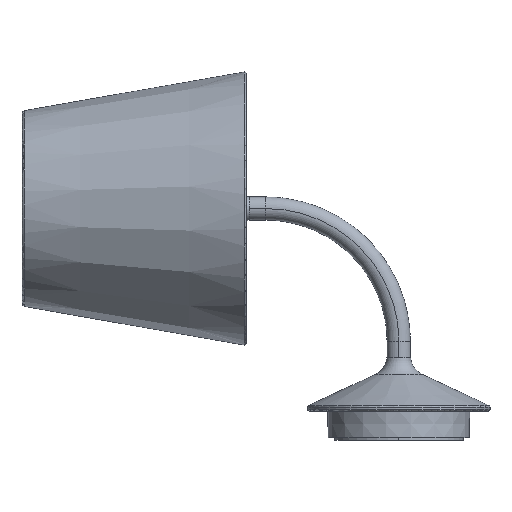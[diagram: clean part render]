
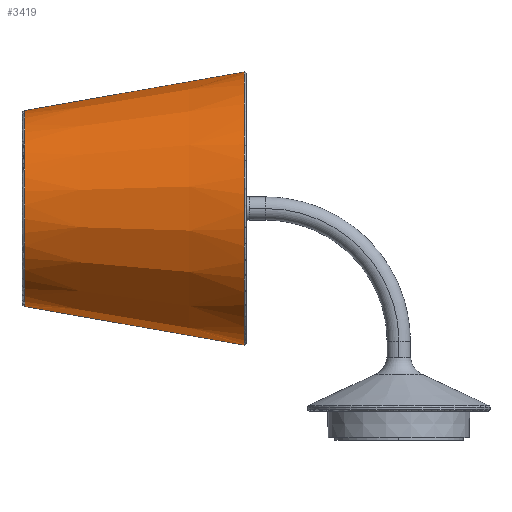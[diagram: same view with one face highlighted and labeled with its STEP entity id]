
A CAD part, left-side view. The second image highlights one B-rep face of the part: STEP entity #3419.
In plain terms, the highlighted conical face has half-angle 10 degrees and reference radius 61.329 mm.
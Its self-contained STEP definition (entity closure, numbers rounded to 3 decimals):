
#37=CONICAL_SURFACE('',#3761,61.329,0.175);
#391=FACE_OUTER_BOUND('',#605,.T.);
#605=EDGE_LOOP('',(#3140,#3141,#3142,#3143));
#902=LINE('',#8477,#1072);
#903=LINE('',#8489,#1073);
#1072=VECTOR('',#4591,304.8);
#1073=VECTOR('',#4592,304.8);
#1287=B_SPLINE_CURVE_WITH_KNOTS('',3,(#8464,#8465,#8466,#8467,#8468,#8469,
#8470,#8471,#8472,#8473,#8474),.UNSPECIFIED.,.F.,.F.,(4,1,1,1,1,1,1,1,4),
(0.,0.125,0.25,0.375,0.5,0.625,0.75,0.875,1.),.UNSPECIFIED.);
#1289=B_SPLINE_CURVE_WITH_KNOTS('',3,(#8491,#8492,#8493,#8494,#8495,#8496,
#8497,#8498,#8499,#8500),.UNSPECIFIED.,.F.,.F.,(4,1,1,1,1,1,1,4),(0.,0.143,
0.286,0.429,0.571,0.714,
0.857,1.),.UNSPECIFIED.);
#1610=VERTEX_POINT('',#8334);
#1611=VERTEX_POINT('',#8393);
#1612=VERTEX_POINT('',#8476);
#1613=VERTEX_POINT('',#8478);
#2121=EDGE_CURVE('',#1610,#1611,#1287,.T.);
#2122=EDGE_CURVE('',#1612,#1610,#902,.T.);
#2124=EDGE_CURVE('',#1611,#1613,#903,.T.);
#2125=EDGE_CURVE('',#1612,#1613,#1289,.T.);
#3140=ORIENTED_EDGE('',*,*,#2121,.T.);
#3141=ORIENTED_EDGE('',*,*,#2124,.T.);
#3142=ORIENTED_EDGE('',*,*,#2125,.F.);
#3143=ORIENTED_EDGE('',*,*,#2122,.T.);
#3419=ADVANCED_FACE('',(#391),#37,.T.);
#3761=AXIS2_PLACEMENT_3D('',#8490,#4593,#4594);
#4591=DIRECTION('',(0.,-0.985,-0.174));
#4592=DIRECTION('',(0.,0.985,-0.174));
#4593=DIRECTION('center_axis',(0.,-1.,0.));
#4594=DIRECTION('ref_axis',(-0.588,0.,0.809));
#8334=CARTESIAN_POINT('',(0.,93.107,57.193));
#8393=CARTESIAN_POINT('',(0.,93.107,221.807));
#8464=CARTESIAN_POINT('Ctrl Pts',(0.,93.107,
57.193));
#8465=CARTESIAN_POINT('Ctrl Pts',(-10.817,93.107,57.085));
#8466=CARTESIAN_POINT('Ctrl Pts',(-32.297,93.107,61.529));
#8467=CARTESIAN_POINT('Ctrl Pts',(-59.72,93.107,79.772));
#8468=CARTESIAN_POINT('Ctrl Pts',(-78.019,93.107,107.186));
#8469=CARTESIAN_POINT('Ctrl Pts',(-84.45,93.107,139.5));
#8470=CARTESIAN_POINT('Ctrl Pts',(-78.019,93.107,171.814));
#8471=CARTESIAN_POINT('Ctrl Pts',(-59.72,93.107,199.228));
#8472=CARTESIAN_POINT('Ctrl Pts',(-32.297,93.107,217.471));
#8473=CARTESIAN_POINT('Ctrl Pts',(-10.817,93.107,221.915));
#8474=CARTESIAN_POINT('Ctrl Pts',(0.,93.107,
221.807));
#8476=CARTESIAN_POINT('',(0.,225.292,80.501));
#8477=CARTESIAN_POINT('',(0.,225.292,80.501));
#8478=CARTESIAN_POINT('',(0.,225.292,198.499));
#8489=CARTESIAN_POINT('',(0.,93.107,221.807));
#8490=CARTESIAN_POINT('Origin',(0.,212.074,139.5));
#8491=CARTESIAN_POINT('Ctrl Pts',(0.,225.292,
80.501));
#8492=CARTESIAN_POINT('Ctrl Pts',(-8.886,225.292,80.373));
#8493=CARTESIAN_POINT('Ctrl Pts',(-26.444,225.292,84.589));
#8494=CARTESIAN_POINT('Ctrl Pts',(-47.709,225.292,101.443));
#8495=CARTESIAN_POINT('Ctrl Pts',(-59.481,225.292,125.929));
#8496=CARTESIAN_POINT('Ctrl Pts',(-59.481,225.292,153.071));
#8497=CARTESIAN_POINT('Ctrl Pts',(-47.709,225.292,177.557));
#8498=CARTESIAN_POINT('Ctrl Pts',(-26.444,225.292,194.411));
#8499=CARTESIAN_POINT('Ctrl Pts',(-8.886,225.292,198.627));
#8500=CARTESIAN_POINT('Ctrl Pts',(0.,225.292,
198.499));
